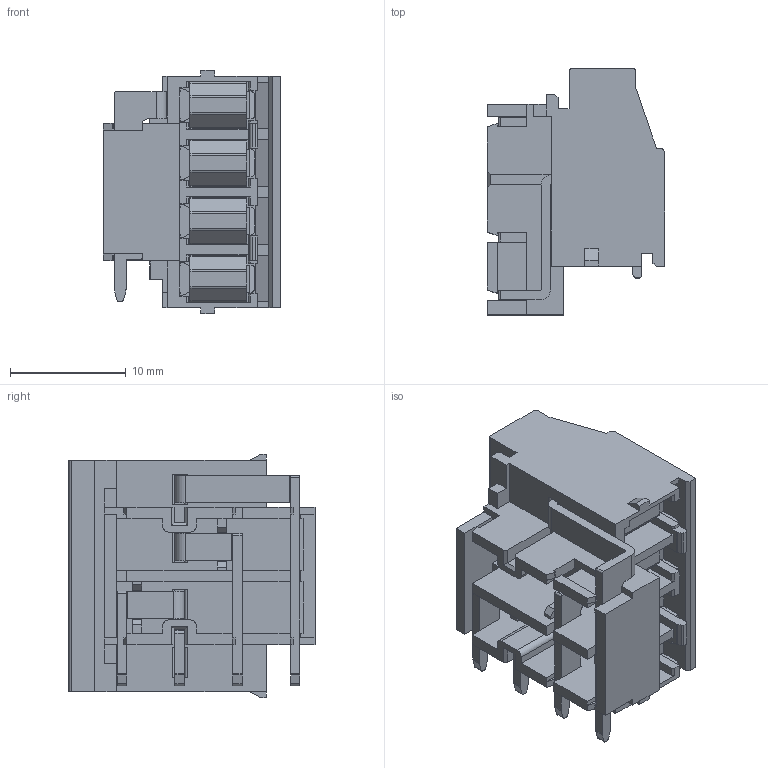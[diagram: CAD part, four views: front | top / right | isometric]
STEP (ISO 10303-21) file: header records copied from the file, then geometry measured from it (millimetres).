
FILE_DESCRIPTION((''),'2;1');
FILE_NAME('E604-R','2020-06-23T',('renkang.li'),(''),'CREO PARAMETRIC BY PTC INC, 2016260','CREO PARAMETRIC BY PTC INC, 2016260','');
FILE_SCHEMA(('CONFIG_CONTROL_DESIGN'));
Products named in the file (1): E604-R
Bounding box: 15.3 x 21.25 x 21 mm (x, y, z)
Volume: 2498.5 mm3; surface area: 5520.4 mm2
Topology: 1 solids, 1 shells, 1080 faces, 3320 edges, 2166 vertices
Faces by surface type: plane 683, cylinder 245, bspline 84, cone 44, torus 24
Entity records: 56984 total; most frequent: CARTESIAN_POINT 28050, ORIENTED_EDGE 6640, DIRECTION 5250, EDGE_CURVE 3320, VECTOR 2246, LINE 2246, VERTEX_POINT 2166, AXIS2_PLACEMENT_3D 1502
